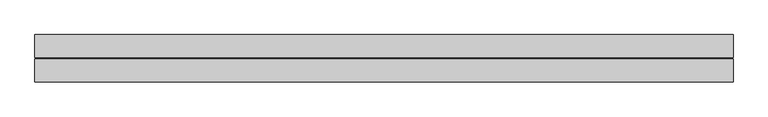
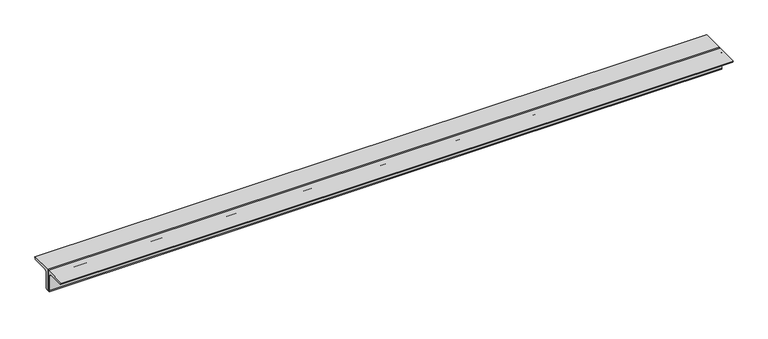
"""IFC4 building model written with IfcOpenShell, lengths in millimetres: beam geometry, Profilati doppi a L : DCED150x12."""

from ifc_helpers import new_model, si_unit, point, frame, frame_2d, origin, place, context, project, spatial, polyline, circle_curve, trimmed, segment, composite_curve, outline, extrude, source, transform, mapped, element, save


def beam_219da6fe(model_context):
    return source(origin(), model_context, "Body", "SweptSolid", [
        extrude(outline(composite_curve([segment(polyline([(6.0, 42.4), (156.0, 42.4)]), True, "CONTINUOUS"), segment(trimmed(circle_curve(frame_2d((141.0, 42.4)), 15.0), [point((156.0, 42.4))], [point((141.0, 27.4))], False, "CARTESIAN"), True, "CONTINUOUS"), segment(polyline([(141.0, 27.4), (36.0, 27.4)]), True, "CONTINUOUS"), segment(trimmed(circle_curve(frame_2d((36.0, 12.4)), 15.0), [point((36.0, 27.4))], [point((21.0, 12.4))], True, "CARTESIAN"), True, "CONTINUOUS"), segment(polyline([(21.0, 12.4), (21.0, -92.6)]), True, "CONTINUOUS"), segment(trimmed(circle_curve(frame_2d((6.0, -92.6)), 15.0), [point((21.0, -92.6))], [point((6.0, -107.6))], False, "CARTESIAN"), True, "CONTINUOUS"), segment(polyline([(6.0, -107.6), (6.0, 42.4)]), True, "CONTINUOUS")], self_intersect=False)), frame((-1985.0, 0.0, 0.0), z_axis=(1.0, 0.0, 0.0), x_axis=(0.0, 1.0, 0.0)), (0.0, 0.0, 1.0), 4608.0),
        extrude(outline(composite_curve([segment(polyline([(-6.0, 42.4), (-6.0, -107.6)]), True, "CONTINUOUS"), segment(trimmed(circle_curve(frame_2d((-6.0, -92.6)), 15.0), [point((-6.0, -107.6))], [point((-21.0, -92.6))], False, "CARTESIAN"), True, "CONTINUOUS"), segment(polyline([(-21.0, -92.6), (-21.0, 12.4)]), True, "CONTINUOUS"), segment(trimmed(circle_curve(frame_2d((-36.0, 12.4)), 15.0), [point((-21.0, 12.4))], [point((-36.0, 27.4))], True, "CARTESIAN"), True, "CONTINUOUS"), segment(polyline([(-36.0, 27.4), (-141.0, 27.4)]), True, "CONTINUOUS"), segment(trimmed(circle_curve(frame_2d((-141.0, 42.4)), 15.0), [point((-141.0, 27.4))], [point((-156.0, 42.4))], False, "CARTESIAN"), True, "CONTINUOUS"), segment(polyline([(-156.0, 42.4), (-6.0, 42.4)]), True, "CONTINUOUS")], self_intersect=False)), frame((-1985.0, 0.0, 0.0), z_axis=(1.0, 0.0, 0.0), x_axis=(0.0, 1.0, 0.0)), (0.0, 0.0, 1.0), 4608.0),
    ])


if __name__ == "__main__":
    model = new_model("IFC4")
    model_context = context("Model", 3, world=origin())
    ifc_project = project(units=[si_unit("LENGTHUNIT", "METRE", prefix="MILLI")], contexts=[model_context])
    site = spatial("IfcSite", under=ifc_project)
    building = spatial("IfcBuilding", under=site)
    placement = place(None, origin())
    beam_shape = beam_219da6fe(model_context)
    element("IfcBeam", 1, ObjectType="Profilati doppi a L : DCED150x12", at=placement, inside=building, context=model_context, shape_type="MappedRepresentation", body=[
        mapped(beam_shape, transform((0.0, 0.0, 0.0), x_axis=(1.0, 0.0, 0.0), y_axis=(0.0, 1.0, 0.0), z_axis=(0.0, 0.0, 1.0))),
    ])
    save(model, "model.ifc")
